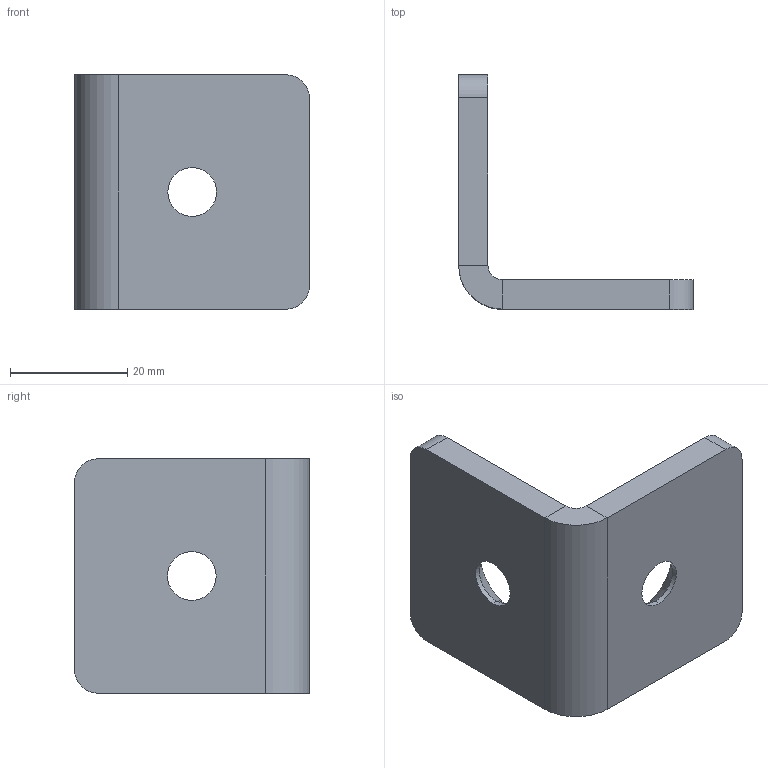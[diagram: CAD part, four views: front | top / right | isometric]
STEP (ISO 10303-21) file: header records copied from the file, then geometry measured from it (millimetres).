
FILE_DESCRIPTION (( 'STEP AP214' ), '1' );
FILE_NAME ('967-40-40-L-1-ZB.step', '2023-06-26T09:08:26', ( '' ), ( '' ), 'SwSTEP 2.0', 'SolidWorks 2022', '' );
FILE_SCHEMA (( 'AUTOMOTIVE_DESIGN' ));
Length unit declared in the file: millimetre
Products named in the file (1): 967-40-40-L-1-ZB
Bounding box: 40.05 x 40.05 x 40 mm (x, y, z)
Volume: 13398.1 mm3; surface area: 6866.7 mm2
Topology: 1 solids, 1 shells, 26 faces, 60 edges, 36 vertices
Faces by surface type: plane 12, cylinder 10, cone 4
Entity records: 774 total; most frequent: DIRECTION 138, CARTESIAN_POINT 123, ORIENTED_EDGE 120, EDGE_CURVE 60, AXIS2_PLACEMENT_3D 51, LINE 36, VERTEX_POINT 36, VECTOR 36
